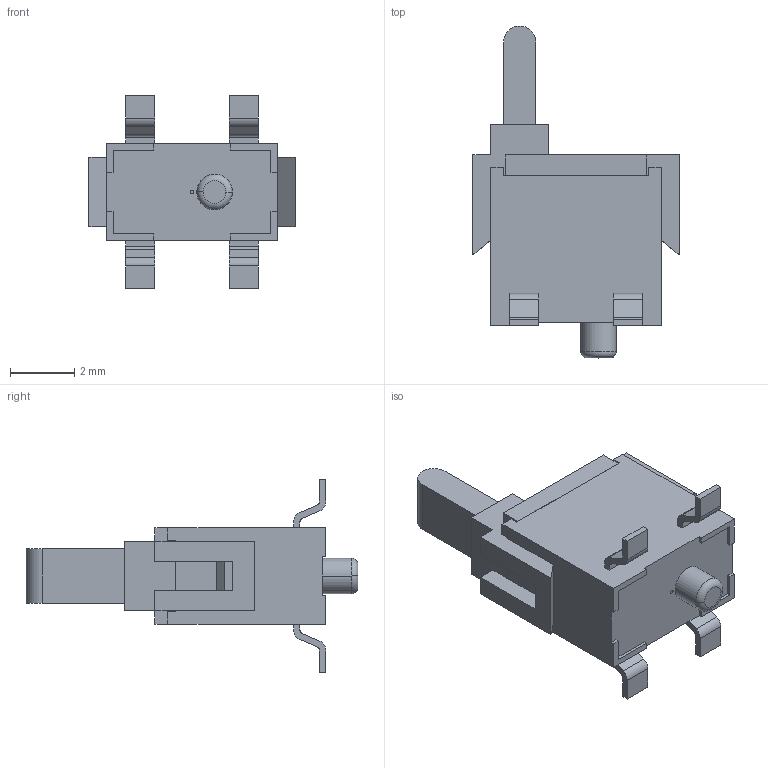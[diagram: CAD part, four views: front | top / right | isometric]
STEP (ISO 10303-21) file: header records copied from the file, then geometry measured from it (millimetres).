
FILE_DESCRIPTION((''),'2;1');
FILE_NAME('JJA6430W-L0931-105_ASM','2026-05-18T10:30:30',('Admin'),(''),'CREO PARAMETRIC BY PTC INC, 2019224','CREO PARAMETRIC BY PTC INC, 2019224','');
FILE_SCHEMA(('AUTOMOTIVE_DESIGN { 1 0 10303 214 1 1 1 1 }'));
Length unit declared in the file: millimetre
Products named in the file (3): JJA6430W-L0931-105_01; JJA6430W-L0931-105_02; JJA6430W-L0931-105_ASM
Assembly tree (2 placements, depth 2):
  JJA6430W-L0931-105_ASM
    JJA6430W-L0931-105_01
    JJA6430W-L0931-105_02
Bounding box: 6.4 x 10.3 x 6 mm (x, y, z)
Volume: 99.3 mm3; surface area: 240.3 mm2
Topology: 2 solids, 3 shells, 147 faces, 412 edges, 278 vertices
Faces by surface type: plane 124, cylinder 21, torus 2
Entity records: 6775 total; most frequent: CARTESIAN_POINT 846, ORIENTED_EDGE 812, DIRECTION 774, PRESENTATION_STYLE_ASSIGNMENT 470, STYLED_ITEM 418, CURVE_STYLE 415, EDGE_CURVE 408, VECTOR 364
